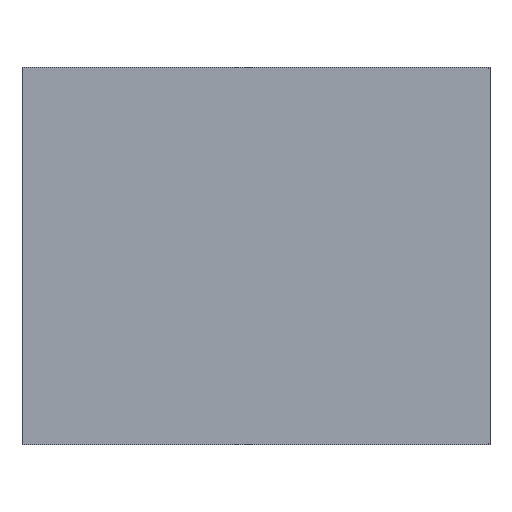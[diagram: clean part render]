
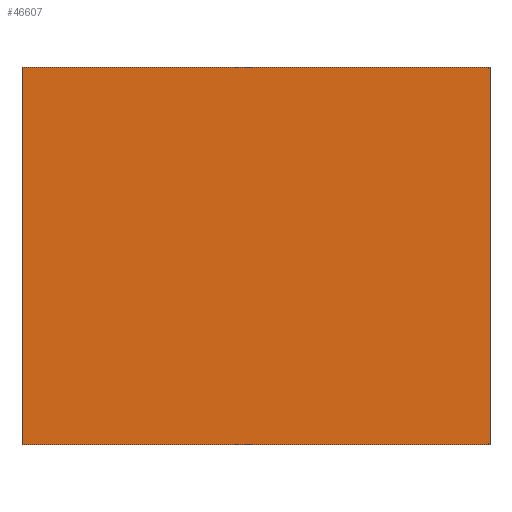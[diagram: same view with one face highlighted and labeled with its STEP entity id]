
A CAD part, top view. The second image highlights one B-rep face of the part: STEP entity #46607.
In plain terms, the highlighted planar face has unit normal (0, 0, 1).
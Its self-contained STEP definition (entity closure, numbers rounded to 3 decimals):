
#46480=DIRECTION('',(0.,-1.,0.));
#46481=VECTOR('',#46480,1777.281);
#46482=CARTESIAN_POINT('',(-1021.731,888.64,3000.));
#46483=LINE('',#46482,#46481);
#46487=DIRECTION('',(-1.,0.,0.));
#46488=VECTOR('',#46487,2203.463);
#46489=CARTESIAN_POINT('',(1181.731,888.64,3000.));
#46490=LINE('',#46489,#46488);
#46494=DIRECTION('',(0.,1.,0.));
#46495=VECTOR('',#46494,1777.281);
#46496=CARTESIAN_POINT('',(1181.731,-888.64,3000.));
#46497=LINE('',#46496,#46495);
#46501=DIRECTION('',(1.,0.,0.));
#46502=VECTOR('',#46501,2203.463);
#46503=CARTESIAN_POINT('',(-1021.731,-888.64,3000.));
#46504=LINE('',#46503,#46502);
#46516=CARTESIAN_POINT('',(-1021.731,888.64,3000.));
#46517=CARTESIAN_POINT('',(-1021.731,-888.64,3000.));
#46518=VERTEX_POINT('',#46516);
#46519=VERTEX_POINT('',#46517);
#46520=CARTESIAN_POINT('',(1181.731,-888.64,3000.));
#46521=VERTEX_POINT('',#46520);
#46522=CARTESIAN_POINT('',(1181.731,888.64,3000.));
#46523=VERTEX_POINT('',#46522);
#46596=CARTESIAN_POINT('',(0.,0.,3000.));
#46597=DIRECTION('',(0.,0.,1.));
#46598=DIRECTION('',(1.,0.,0.));
#46599=AXIS2_PLACEMENT_3D('',#46596,#46597,#46598);
#46600=PLANE('',#46599);
#46601=ORIENTED_EDGE('',*,*,#46548,.F.);
#46602=ORIENTED_EDGE('',*,*,#46563,.F.);
#46603=ORIENTED_EDGE('',*,*,#46577,.F.);
#46604=ORIENTED_EDGE('',*,*,#46590,.F.);
#46605=EDGE_LOOP('',(#46601,#46602,#46603,#46604));
#46606=FACE_OUTER_BOUND('',#46605,.F.);
#46548=EDGE_CURVE('',#46518,#46519,#46483,.T.);
#46563=EDGE_CURVE('',#46523,#46518,#46490,.T.);
#46577=EDGE_CURVE('',#46521,#46523,#46497,.T.);
#46590=EDGE_CURVE('',#46519,#46521,#46504,.T.);
#46607=ADVANCED_FACE('',(#46606),#46600,.T.);
